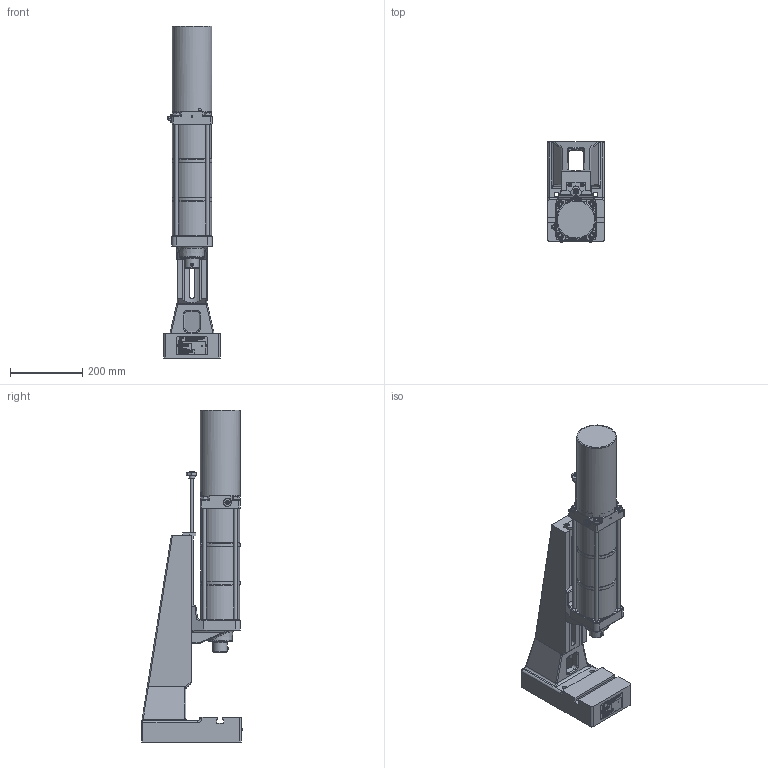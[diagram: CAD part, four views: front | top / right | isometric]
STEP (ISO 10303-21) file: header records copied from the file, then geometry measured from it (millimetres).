
FILE_DESCRIPTION(/* description */ ('BS Ständer L-DA Ausladung 80'),/* implementation_level */ '2;1');
FILE_NAME(/* name */ 'B:\02_CAD_oeffentlich\CAD_3D_oeffentlich_step\Druckluftpresse\DRP_L_1300_060_080.stp',/* time_stamp */ '2017-08-22T07:48:16+02:00',/* author */ ('Finsterle'),/* organization */ (''),/* preprocessor_version */ 'ST-DEVELOPER v16.1',/* originating_system */ 'Autodesk Inventor 2016',/* authorisation */ '');
FILE_SCHEMA (('AUTOMOTIVE_DESIGN { 1 0 10303 214 3 1 1 }'));
Products named in the file (5): ENG-000855_V; ENG-001055_V; HBF-000760; ENG-000755; HBF-001041_V
Assembly tree (5 placements, depth 2):
  HBF-001041_V
    ENG-000855_V
    ENG-001055_V
    HBF-000760
    ENG-000755  x2
Bounding box: 156 x 276.8 x 916.68 mm (x, y, z)
Volume: 5550873.9 mm3; surface area: 1156242.3 mm2
Topology: 6 solids, 6 shells, 7570 faces, 20701 edges, 13577 vertices
Faces by surface type: plane 4627, bspline 2241, cylinder 399, cone 146, torus 96, sphere 61
Full cylindrical faces by diameter (mm): 1 x1, 2 x1, 2.459 x2, 3 x9, 3.242 x2, 3.5 x2, 4 x3, 4.917 x2, 5 x4, 6.5 x2, 6.647 x1, 8 x9, 8.4 x1, 9.5 x1, 10 x6, 10.106 x1, 10.5 x8, 11 x2, 11.8 x2, 12 x6, 12.5 x3, 13 x4, 14.376 x1, 14.95 x3, 16 x1, 17.5 x2, 18 x3, 19.4 x1, 19.5 x1, 20 x7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
Entity records: 259118 total; most frequent: CARTESIAN_POINT 76863, ORIENTED_EDGE 40446, DIRECTION 27385, EDGE_CURVE 20218, LINE 14411, VECTOR 14411, VERTEX_POINT 13475, EDGE_LOOP 8425
